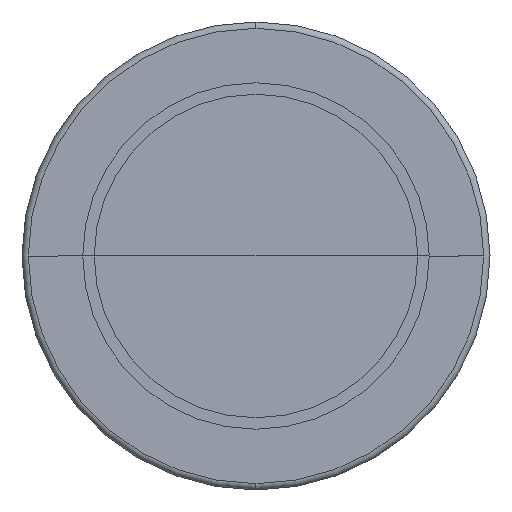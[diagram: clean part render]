
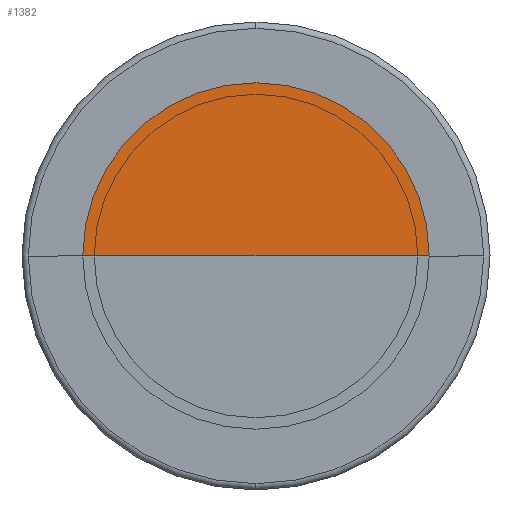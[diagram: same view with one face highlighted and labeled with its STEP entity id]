
A CAD part, left-side view. The second image highlights one B-rep face of the part: STEP entity #1382.
In plain terms, the highlighted planar face has unit normal (-1, 0, 0).
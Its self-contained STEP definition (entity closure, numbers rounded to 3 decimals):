
#15 = AXIS2_PLACEMENT_3D ( 'NONE', #1392, #308, #1237 ) ;
#68 = DIRECTION ( 'NONE',  ( 0., 1., 0. ) ) ;
#75 = CARTESIAN_POINT ( 'NONE',  ( -5., 0., 0. ) ) ;
#97 = VERTEX_POINT ( 'NONE', #734 ) ;
#164 = CARTESIAN_POINT ( 'NONE',  ( -5., -34.1, 0. ) ) ;
#171 = DIRECTION ( 'NONE',  ( 0., -1., 0. ) ) ;
#194 = VECTOR ( 'NONE', #68, 1000. ) ;
#308 = DIRECTION ( 'NONE',  ( 1., 0., 0. ) ) ;
#349 = CARTESIAN_POINT ( 'NONE',  ( -5., 0., 0. ) ) ;
#374 = CIRCLE ( 'NONE', #1235, 34.1 ) ;
#380 = CIRCLE ( 'NONE', #537, 34.1 ) ;
#444 = FACE_OUTER_BOUND ( 'NONE', #695, .T. ) ;
#456 = ORIENTED_EDGE ( 'NONE', *, *, #1462, .T. ) ;
#458 = CARTESIAN_POINT ( 'NONE',  ( -5., 34.1, 0. ) ) ;
#475 = EDGE_CURVE ( 'NONE', #97, #630, #380, .T. ) ;
#509 = EDGE_CURVE ( 'NONE', #97, #1300, #648, .T. ) ;
#517 = CARTESIAN_POINT ( 'NONE',  ( -5., 32.431, 10.537 ) ) ;
#537 = AXIS2_PLACEMENT_3D ( 'NONE', #75, #875, #883 ) ;
#576 = ORIENTED_EDGE ( 'NONE', *, *, #475, .T. ) ;
#630 = VERTEX_POINT ( 'NONE', #517 ) ;
#648 = LINE ( 'NONE', #164, #194 ) ;
#695 = EDGE_LOOP ( 'NONE', ( #576, #456, #967 ) ) ;
#734 = CARTESIAN_POINT ( 'NONE',  ( -5., -34.1, 0. ) ) ;
#875 = DIRECTION ( 'NONE',  ( -1., 0., 0. ) ) ;
#881 = DIRECTION ( 'NONE',  ( -1., 0., 0. ) ) ;
#883 = DIRECTION ( 'NONE',  ( 0., -1., 0. ) ) ;
#902 = PLANE ( 'NONE',  #15 ) ;
#967 = ORIENTED_EDGE ( 'NONE', *, *, #509, .F. ) ;
#1235 = AXIS2_PLACEMENT_3D ( 'NONE', #349, #881, #171 ) ;
#1237 = DIRECTION ( 'NONE',  ( 0., -1., 0. ) ) ;
#1300 = VERTEX_POINT ( 'NONE', #458 ) ;
#1382 = ADVANCED_FACE ( 'NONE', ( #444 ), #902, .F. ) ;
#1392 = CARTESIAN_POINT ( 'NONE',  ( -5., 0., 0. ) ) ;
#1462 = EDGE_CURVE ( 'NONE', #630, #1300, #374, .T. ) ;
